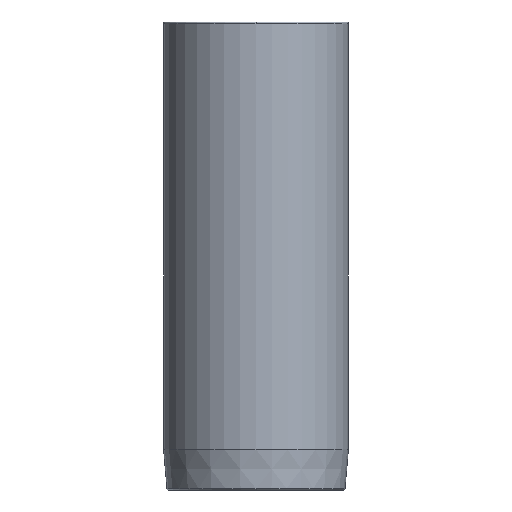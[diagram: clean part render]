
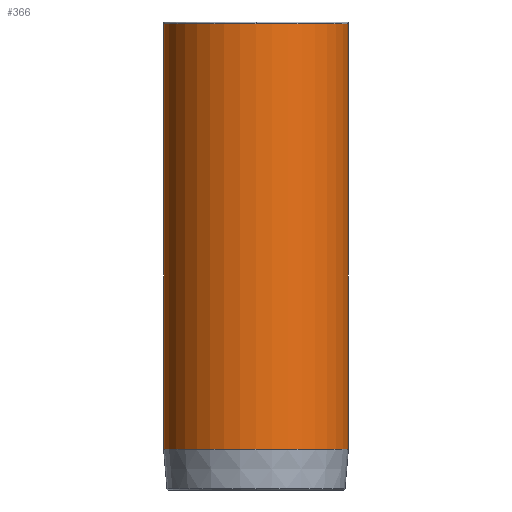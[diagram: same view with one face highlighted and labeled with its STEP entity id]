
A CAD part, front view. The second image highlights one B-rep face of the part: STEP entity #366.
In plain terms, the highlighted cylindrical face has radius 29.625 mm (diameter 59.25 mm), a partial arc.
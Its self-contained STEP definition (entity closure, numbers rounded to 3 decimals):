
#271=CARTESIAN_POINT('',(0.0,-29.625,68.5));
#272=VERTEX_POINT('',#271);
#298=CARTESIAN_POINT('',(-29.625,0.,68.5));
#299=VERTEX_POINT('',#298);
#307=CARTESIAN_POINT('',(0.0,0.,68.5));
#308=DIRECTION('',(0.0,0.0,1.0));
#309=DIRECTION('',(1.0,0.0,0.0));
#310=AXIS2_PLACEMENT_3D('',#307,#308,#309);
#311=CIRCLE('',#310,29.625);
#312=EDGE_CURVE('',#299,#272,#311,.T.);
#317=CARTESIAN_POINT('',(0.0,0.,0.272));
#318=DIRECTION('',(0.0,0.,1.0));
#319=DIRECTION('',(1.0,0.0,0.0));
#320=AXIS2_PLACEMENT_3D('',#317,#318,#319);
#321=CYLINDRICAL_SURFACE('',#320,29.625);
#322=CARTESIAN_POINT('',(29.625,0.,68.5));
#323=VERTEX_POINT('',#322);
#324=CARTESIAN_POINT('',(29.625,0.,-67.956));
#325=VERTEX_POINT('',#324);
#326=CARTESIAN_POINT('',(29.625,0.,68.5));
#327=DIRECTION('',(0.0,0.0,-1.0));
#328=VECTOR('',#327,136.456);
#329=LINE('',#326,#328);
#330=EDGE_CURVE('',#323,#325,#329,.T.);
#331=ORIENTED_EDGE('',*,*,#330,.F.);
#332=CARTESIAN_POINT('',(0.0,0.,68.5));
#333=DIRECTION('',(0.0,0.0,1.0));
#334=DIRECTION('',(1.0,0.0,0.0));
#335=AXIS2_PLACEMENT_3D('',#332,#333,#334);
#336=CIRCLE('',#335,29.625);
#337=EDGE_CURVE('',#272,#323,#336,.T.);
#338=ORIENTED_EDGE('',*,*,#337,.F.);
#339=ORIENTED_EDGE('',*,*,#312,.F.);
#340=CARTESIAN_POINT('',(-29.625,0.,-67.956));
#341=VERTEX_POINT('',#340);
#342=CARTESIAN_POINT('',(-29.625,0.,68.5));
#343=DIRECTION('',(0.0,0.0,-1.0));
#344=VECTOR('',#343,136.456);
#345=LINE('',#342,#344);
#346=EDGE_CURVE('',#299,#341,#345,.T.);
#347=ORIENTED_EDGE('',*,*,#346,.T.);
#348=CARTESIAN_POINT('',(0.0,-29.625,-67.956));
#349=VERTEX_POINT('',#348);
#350=CARTESIAN_POINT('',(0.0,0.,-67.956));
#351=DIRECTION('',(0.0,0.0,1.0));
#352=DIRECTION('',(1.0,0.0,0.0));
#353=AXIS2_PLACEMENT_3D('',#350,#351,#352);
#354=CIRCLE('',#353,29.625);
#355=EDGE_CURVE('',#341,#349,#354,.T.);
#356=ORIENTED_EDGE('',*,*,#355,.T.);
#357=CARTESIAN_POINT('',(0.0,0.,-67.956));
#358=DIRECTION('',(0.0,0.0,1.0));
#359=DIRECTION('',(1.0,0.0,0.0));
#360=AXIS2_PLACEMENT_3D('',#357,#358,#359);
#361=CIRCLE('',#360,29.625);
#362=EDGE_CURVE('',#349,#325,#361,.T.);
#363=ORIENTED_EDGE('',*,*,#362,.T.);
#364=EDGE_LOOP('',(#331,#338,#339,#347,#356,#363));
#365=FACE_OUTER_BOUND('',#364,.T.);
#366=ADVANCED_FACE('',(#365),#321,.T.);
